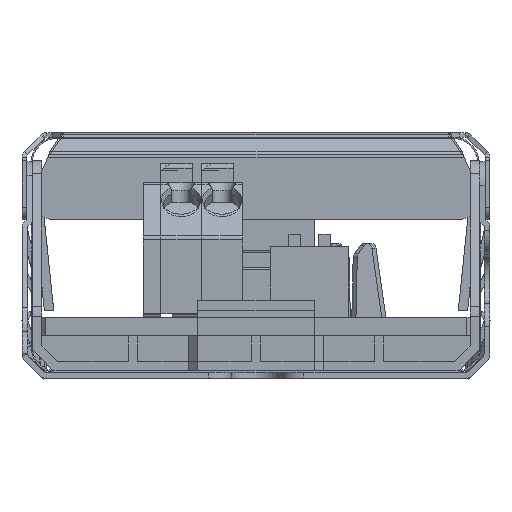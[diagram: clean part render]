
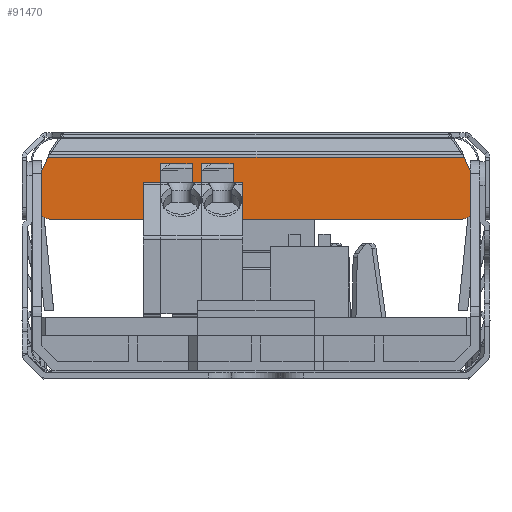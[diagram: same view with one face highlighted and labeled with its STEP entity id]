
A CAD part, front view. The second image highlights one B-rep face of the part: STEP entity #91470.
In plain terms, the highlighted planar face has unit normal (0, -1, 0) as drawn and (-1, 0, 0) by its records, which use the part's own axes.
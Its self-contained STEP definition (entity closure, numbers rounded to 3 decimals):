
#86560=CARTESIAN_POINT('',(-9.034,0.377,
1.724));
#86570=VERTEX_POINT('',#86560);
#87190=CARTESIAN_POINT('',(-9.034,35.954,
1.724));
#87200=VERTEX_POINT('',#87190);
#87230=CARTESIAN_POINT('',(-9.034,0.377,
1.724));
#87240=DIRECTION('',(0.,1.,0.));
#87250=VECTOR('',#87240,1.);
#87260=LINE('',#87230,#87250);
#87270=EDGE_CURVE('',#86570,#87200,#87260,.T.);
#89880=CARTESIAN_POINT('',(-9.034,-1.234,4.8
));
#89890=VERTEX_POINT('',#89880);
#89920=CARTESIAN_POINT('',(-9.034,-1.234,4.8
));
#89930=DIRECTION('',(0.,0.707,0.707));
#89940=VECTOR('',#89930,1.);
#89950=LINE('',#89920,#89940);
#89960=CARTESIAN_POINT('',(-9.034,-0.434,
5.6));
#89970=VERTEX_POINT('',#89960);
#89980=EDGE_CURVE('',#89890,#89970,#89950,.T.);
#90190=CARTESIAN_POINT('',(-9.034,-0.434,
4.));
#90200=VERTEX_POINT('',#90190);
#90230=CARTESIAN_POINT('',(-9.034,-0.434,
4.));
#90240=DIRECTION('',(0.,-0.707,0.707));
#90250=VECTOR('',#90240,1.);
#90260=LINE('',#90230,#90250);
#90270=EDGE_CURVE('',#90200,#89890,#90260,.T.);
#90450=CARTESIAN_POINT('',(-9.034,-0.434,
3.464));
#90460=VERTEX_POINT('',#90450);
#90490=CARTESIAN_POINT('',(-9.034,-0.434,
4.));
#90500=DIRECTION('',(0.,0.,-1.));
#90510=VECTOR('',#90500,1.);
#90520=LINE('',#90490,#90510);
#90530=EDGE_CURVE('',#90200,#90460,#90520,.T.);
#90580=CARTESIAN_POINT('',(-9.034,18.166,4.362
));
#90590=DIRECTION('',(-1.,0.,0.));
#90600=DIRECTION('',(0.,1.,0.));
#90610=AXIS2_PLACEMENT_3D('',#90580,#90590,#90600);
#90620=PLANE('',#90610);
#90630=CARTESIAN_POINT('',(-9.034,0.377,
1.724));
#90640=DIRECTION('',(0.,-0.423,
0.906));
#90650=VECTOR('',#90640,1.);
#90660=LINE('',#90630,#90650);
#90670=EDGE_CURVE('',#86570,#90460,#90660,.T.);
#90680=ORIENTED_EDGE('',*,*,#90670,.T.);
#90690=ORIENTED_EDGE('',*,*,#87270,.F.);
#90700=CARTESIAN_POINT('',(-9.034,36.766,3.464
));
#90710=DIRECTION('',(0.,-0.423,-0.906));
#90720=VECTOR('',#90710,1.);
#90730=LINE('',#90700,#90720);
#90740=CARTESIAN_POINT('',(-9.034,36.766,3.464
));
#90750=VERTEX_POINT('',#90740);
#90760=EDGE_CURVE('',#90750,#87200,#90730,.T.);
#90770=ORIENTED_EDGE('',*,*,#90760,.T.);
#90780=CARTESIAN_POINT('',(-9.034,36.766,3.464)
);
#90790=DIRECTION('',(0.,0.,1.));
#90800=VECTOR('',#90790,1.);
#90810=LINE('',#90780,#90800);
#90820=CARTESIAN_POINT('',(-9.034,36.766,4.
));
#90830=VERTEX_POINT('',#90820);
#90840=EDGE_CURVE('',#90750,#90830,#90810,.T.);
#90850=ORIENTED_EDGE('',*,*,#90840,.F.);
#90860=CARTESIAN_POINT('',(-9.034,37.566,
4.8));
#90870=DIRECTION('',(0.,-0.707,-0.707));
#90880=VECTOR('',#90870,1.);
#90890=LINE('',#90860,#90880);
#90900=CARTESIAN_POINT('',(-9.034,37.566,4.8
));
#90910=VERTEX_POINT('',#90900);
#90920=EDGE_CURVE('',#90910,#90830,#90890,.T.);
#90930=ORIENTED_EDGE('',*,*,#90920,.T.);
#90940=CARTESIAN_POINT('',(-9.034,36.766,5.6));
#90950=DIRECTION('',(0.,0.707,-0.707));
#90960=VECTOR('',#90950,1.);
#90970=LINE('',#90940,#90960);
#90980=CARTESIAN_POINT('',(-9.034,36.766,5.6
));
#90990=VERTEX_POINT('',#90980);
#91000=EDGE_CURVE('',#90990,#90910,#90970,.T.);
#91010=ORIENTED_EDGE('',*,*,#91000,.T.);
#91020=CARTESIAN_POINT('',(-9.034,36.766,5.6
));
#91030=DIRECTION('',(0.,0.,1.));
#91040=VECTOR('',#91030,1.);
#91050=LINE('',#91020,#91040);
#91060=CARTESIAN_POINT('',(-9.034,36.766,6.
));
#91070=VERTEX_POINT('',#91060);
#91080=EDGE_CURVE('',#90990,#91070,#91050,.T.);
#91090=ORIENTED_EDGE('',*,*,#91080,.F.);
#91100=CARTESIAN_POINT('',(-9.034,35.766,6.
));
#91110=DIRECTION('',(-1.,0.,0.));
#91120=DIRECTION('',(0.,0.,1.));
#91130=AXIS2_PLACEMENT_3D('',#91100,#91110,#91120);
#91140=CIRCLE('',#91130,1.);
#91150=CARTESIAN_POINT('',(-9.034,35.766,7.
));
#91160=VERTEX_POINT('',#91150);
#91170=EDGE_CURVE('',#91160,#91070,#91140,.T.);
#91180=ORIENTED_EDGE('',*,*,#91170,.T.);
#91190=CARTESIAN_POINT('',(-9.034,0.566,
7.));
#91200=DIRECTION('',(0.,1.,0.));
#91210=VECTOR('',#91200,1.);
#91220=LINE('',#91190,#91210);
#91230=CARTESIAN_POINT('',(-9.034,0.566,
7.));
#91240=VERTEX_POINT('',#91230);
#91250=EDGE_CURVE('',#91240,#91160,#91220,.T.);
#91260=ORIENTED_EDGE('',*,*,#91250,.T.);
#91270=CARTESIAN_POINT('',(-9.034,0.566,6.)
);
#91280=DIRECTION('',(-1.,0.,0.));
#91290=DIRECTION('',(0.,-1.,0.));
#91300=AXIS2_PLACEMENT_3D('',#91270,#91280,#91290);
#91310=CIRCLE('',#91300,1.);
#91320=CARTESIAN_POINT('',(-9.034,-0.434,6.
));
#91330=VERTEX_POINT('',#91320);
#91340=EDGE_CURVE('',#91330,#91240,#91310,.T.);
#91350=ORIENTED_EDGE('',*,*,#91340,.T.);
#91360=CARTESIAN_POINT('',(-9.034,-0.434,
6.));
#91370=DIRECTION('',(0.,0.,-1.));
#91380=VECTOR('',#91370,1.);
#91390=LINE('',#91360,#91380);
#91400=EDGE_CURVE('',#91330,#89970,#91390,.T.);
#91410=ORIENTED_EDGE('',*,*,#91400,.F.);
#91420=ORIENTED_EDGE('',*,*,#89980,.T.);
#91430=ORIENTED_EDGE('',*,*,#90270,.T.);
#91440=ORIENTED_EDGE('',*,*,#90530,.F.);
#91450=EDGE_LOOP('',(#91440,#91430,#91420,#91410,#91350,#91260,#91180,
#91090,#91010,#90930,#90850,#90770,#90690,#90680));
#91460=FACE_OUTER_BOUND('',#91450,.T.);
#91470=ADVANCED_FACE('',(#91460),#90620,.T.);
